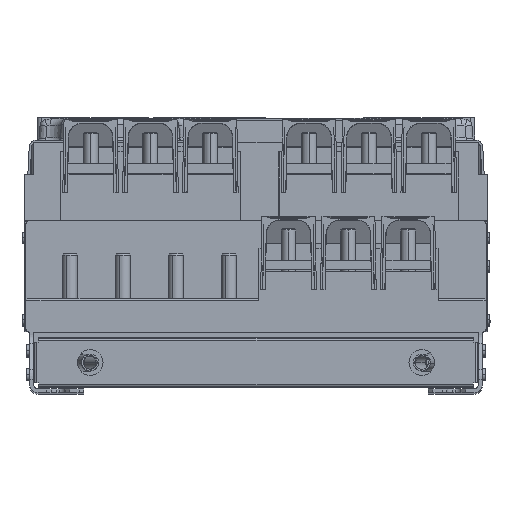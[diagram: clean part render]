
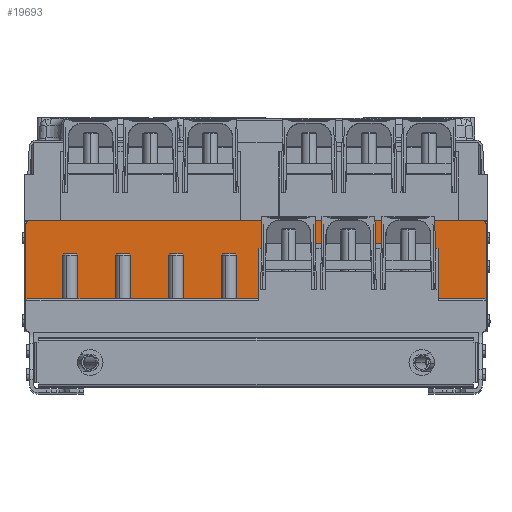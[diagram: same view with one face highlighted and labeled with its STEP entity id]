
A CAD part, top view. The second image highlights one B-rep face of the part: STEP entity #19693.
In plain terms, the highlighted planar face has unit normal (0, 0, 1).
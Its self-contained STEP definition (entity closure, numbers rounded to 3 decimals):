
#1294 = CARTESIAN_POINT ( 'NONE',  ( 245., 35., 179. ) ) ;
#1686 = ORIENTED_EDGE ( 'NONE', *, *, #53035, .T. ) ;
#2669 = DIRECTION ( 'NONE',  ( 1., 0., 0. ) ) ;
#2855 = EDGE_CURVE ( 'NONE', #5319, #25279, #47126, .T. ) ;
#2884 = EDGE_CURVE ( 'NONE', #6466, #87684, #41262, .T. ) ;
#3689 = EDGE_CURVE ( 'NONE', #77881, #73263, #59773, .T. ) ;
#3832 = AXIS2_PLACEMENT_3D ( 'NONE', #18816, #11830, #13189 ) ;
#3923 = LINE ( 'NONE', #83795, #23341 ) ;
#4007 = DIRECTION ( 'NONE',  ( 1., 0., 0. ) ) ;
#4682 = LINE ( 'NONE', #48576, #34442 ) ;
#5319 = VERTEX_POINT ( 'NONE', #25651 ) ;
#5397 = VECTOR ( 'NONE', #55304, 1000. ) ;
#6466 = VERTEX_POINT ( 'NONE', #23507 ) ;
#6686 = CARTESIAN_POINT ( 'NONE',  ( 5.351, 63.129, 179. ) ) ;
#7188 = EDGE_CURVE ( 'NONE', #38292, #48477, #81641, .T. ) ;
#8192 = CARTESIAN_POINT ( 'NONE',  ( 245., 35., 179. ) ) ;
#10267 = VERTEX_POINT ( 'NONE', #62248 ) ;
#11442 = FACE_OUTER_BOUND ( 'NONE', #57064, .T. ) ;
#11830 = DIRECTION ( 'NONE',  ( 0., 0., -1. ) ) ;
#11894 = DIRECTION ( 'NONE',  ( 0., 0., 1. ) ) ;
#13110 = EDGE_CURVE ( 'NONE', #26876, #87684, #46923, .T. ) ;
#13189 = DIRECTION ( 'NONE',  ( 1., 0., 0. ) ) ;
#13799 = LINE ( 'NONE', #55906, #32914 ) ;
#14808 = CARTESIAN_POINT ( 'NONE',  ( -247., 1., 179. ) ) ;
#15557 = VECTOR ( 'NONE', #57085, 1000. ) ;
#16467 = DIRECTION ( 'NONE',  ( 0.707, 0.707, 0. ) ) ;
#18159 = ORIENTED_EDGE ( 'NONE', *, *, #25123, .T. ) ;
#18413 = CARTESIAN_POINT ( 'NONE',  ( -247., 31., 179. ) ) ;
#18816 = CARTESIAN_POINT ( 'NONE',  ( -243., 115., 179. ) ) ;
#19024 = CARTESIAN_POINT ( 'NONE',  ( 192.965, 63.129, 179. ) ) ;
#19693 = ADVANCED_FACE ( 'NONE', ( #11442 ), #46505, .T. ) ;
#20331 = DIRECTION ( 'NONE',  ( 1., 0., 0. ) ) ;
#20605 = VERTEX_POINT ( 'NONE', #22309 ) ;
#21349 = LINE ( 'NONE', #14808, #33450 ) ;
#22309 = CARTESIAN_POINT ( 'NONE',  ( 195.511, 89., 179. ) ) ;
#23341 = VECTOR ( 'NONE', #40774, 1000. ) ;
#23507 = CARTESIAN_POINT ( 'NONE',  ( 5.894, 94.2, 179. ) ) ;
#24981 = VERTEX_POINT ( 'NONE', #30122 ) ;
#25123 = EDGE_CURVE ( 'NONE', #20605, #38292, #30597, .T. ) ;
#25279 = VERTEX_POINT ( 'NONE', #70807 ) ;
#25463 = CARTESIAN_POINT ( 'NONE',  ( -247., 35., 179. ) ) ;
#25651 = CARTESIAN_POINT ( 'NONE',  ( -247., 115., 179. ) ) ;
#25812 = CARTESIAN_POINT ( 'NONE',  ( 2.806, 89., 179. ) ) ;
#26471 = LINE ( 'NONE', #19024, #62880 ) ;
#26876 = VERTEX_POINT ( 'NONE', #50139 ) ;
#27234 = EDGE_CURVE ( 'NONE', #33652, #5319, #21349, .T. ) ;
#27483 = ORIENTED_EDGE ( 'NONE', *, *, #68338, .F. ) ;
#27912 = VERTEX_POINT ( 'NONE', #49693 ) ;
#28628 = LINE ( 'NONE', #80117, #38180 ) ;
#29725 = DIRECTION ( 'NONE',  ( 0., 0., -1. ) ) ;
#29727 = DIRECTION ( 'NONE',  ( 0.707, -0.707, 0. ) ) ;
#30122 = CARTESIAN_POINT ( 'NONE',  ( -245., 35., 179. ) ) ;
#30597 = LINE ( 'NONE', #45593, #51093 ) ;
#32914 = VECTOR ( 'NONE', #20331, 1000. ) ;
#33450 = VECTOR ( 'NONE', #55185, 1000. ) ;
#33652 = VERTEX_POINT ( 'NONE', #45334 ) ;
#33733 = CARTESIAN_POINT ( 'NONE',  ( 195.511, 35., 179. ) ) ;
#34442 = VECTOR ( 'NONE', #63047, 1000. ) ;
#36193 = ORIENTED_EDGE ( 'NONE', *, *, #13110, .T. ) ;
#37339 = EDGE_CURVE ( 'NONE', #33652, #24981, #28628, .T. ) ;
#38180 = VECTOR ( 'NONE', #16467, 1000. ) ;
#38292 = VERTEX_POINT ( 'NONE', #33733 ) ;
#40094 = DIRECTION ( 'NONE',  ( 0.017, -1., 0. ) ) ;
#40774 = DIRECTION ( 'NONE',  ( 1., 0., 0. ) ) ;
#41262 = LINE ( 'NONE', #6686, #69494 ) ;
#41344 = LINE ( 'NONE', #82519, #43892 ) ;
#41943 = VECTOR ( 'NONE', #2669, 1000. ) ;
#43198 = EDGE_CURVE ( 'NONE', #6466, #59588, #41344, .T. ) ;
#43795 = CARTESIAN_POINT ( 'NONE',  ( 243., 115., 179. ) ) ;
#43892 = VECTOR ( 'NONE', #91354, 1000. ) ;
#44621 = EDGE_CURVE ( 'NONE', #10267, #20605, #3923, .T. ) ;
#44891 = ORIENTED_EDGE ( 'NONE', *, *, #43198, .T. ) ;
#45334 = CARTESIAN_POINT ( 'NONE',  ( -247., 33., 179. ) ) ;
#45566 = CARTESIAN_POINT ( 'NONE',  ( 247., 115., 179. ) ) ;
#45593 = CARTESIAN_POINT ( 'NONE',  ( 195.511, 89., 179. ) ) ;
#46466 = AXIS2_PLACEMENT_3D ( 'NONE', #43795, #29725, #50827 ) ;
#46505 = PLANE ( 'NONE',  #78775 ) ;
#46923 = LINE ( 'NONE', #25812, #5397 ) ;
#47126 = CIRCLE ( 'NONE', #3832, 4. ) ;
#48477 = VERTEX_POINT ( 'NONE', #8192 ) ;
#48576 = CARTESIAN_POINT ( 'NONE',  ( -243., 119., 179. ) ) ;
#48702 = ORIENTED_EDGE ( 'NONE', *, *, #74303, .F. ) ;
#49693 = CARTESIAN_POINT ( 'NONE',  ( 2.806, 35., 179. ) ) ;
#50139 = CARTESIAN_POINT ( 'NONE',  ( 2.806, 89., 179. ) ) ;
#50827 = DIRECTION ( 'NONE',  ( 1., 0., 0. ) ) ;
#51093 = VECTOR ( 'NONE', #81596, 1000. ) ;
#51849 = CARTESIAN_POINT ( 'NONE',  ( 247., 115., 179. ) ) ;
#52502 = CARTESIAN_POINT ( 'NONE',  ( 243., 119., 179. ) ) ;
#52554 = ORIENTED_EDGE ( 'NONE', *, *, #89637, .T. ) ;
#53035 = EDGE_CURVE ( 'NONE', #48477, #73263, #65341, .T. ) ;
#53261 = ORIENTED_EDGE ( 'NONE', *, *, #2855, .F. ) ;
#55185 = DIRECTION ( 'NONE',  ( 0., 1., 0. ) ) ;
#55304 = DIRECTION ( 'NONE',  ( 1., 0., 0. ) ) ;
#55906 = CARTESIAN_POINT ( 'NONE',  ( -247., 35., 179. ) ) ;
#57064 = EDGE_LOOP ( 'NONE', ( #72470, #44891, #74294, #80868, #18159, #57699, #1686, #79281, #27483, #48702, #53261, #70067, #66966, #52554, #87085, #36193 ) ) ;
#57085 = DIRECTION ( 'NONE',  ( 0., 1., 0. ) ) ;
#57699 = ORIENTED_EDGE ( 'NONE', *, *, #7188, .T. ) ;
#59064 = EDGE_CURVE ( 'NONE', #27912, #26876, #65493, .T. ) ;
#59588 = VERTEX_POINT ( 'NONE', #88607 ) ;
#59773 = LINE ( 'NONE', #51849, #85958 ) ;
#61813 = VERTEX_POINT ( 'NONE', #52502 ) ;
#61860 = DIRECTION ( 'NONE',  ( -0.017, -1., 0. ) ) ;
#61980 = CARTESIAN_POINT ( 'NONE',  ( 5.803, 89., 179. ) ) ;
#62248 = CARTESIAN_POINT ( 'NONE',  ( 192.514, 89., 179. ) ) ;
#62880 = VECTOR ( 'NONE', #40094, 1000. ) ;
#63047 = DIRECTION ( 'NONE',  ( 1., 0., 0. ) ) ;
#65341 = LINE ( 'NONE', #1294, #71332 ) ;
#65493 = LINE ( 'NONE', #72067, #15557 ) ;
#66384 = CARTESIAN_POINT ( 'NONE',  ( 247., 33., 179. ) ) ;
#66966 = ORIENTED_EDGE ( 'NONE', *, *, #37339, .T. ) ;
#68338 = EDGE_CURVE ( 'NONE', #61813, #77881, #89774, .T. ) ;
#69494 = VECTOR ( 'NONE', #61860, 1000. ) ;
#70067 = ORIENTED_EDGE ( 'NONE', *, *, #27234, .F. ) ;
#70807 = CARTESIAN_POINT ( 'NONE',  ( -243., 119., 179. ) ) ;
#71332 = VECTOR ( 'NONE', #29727, 1000. ) ;
#72067 = CARTESIAN_POINT ( 'NONE',  ( 2.806, 35., 179. ) ) ;
#72470 = ORIENTED_EDGE ( 'NONE', *, *, #2884, .F. ) ;
#73263 = VERTEX_POINT ( 'NONE', #66384 ) ;
#73365 = DIRECTION ( 'NONE',  ( 0., -1., 0. ) ) ;
#74294 = ORIENTED_EDGE ( 'NONE', *, *, #84308, .T. ) ;
#74303 = EDGE_CURVE ( 'NONE', #25279, #61813, #4682, .T. ) ;
#77881 = VERTEX_POINT ( 'NONE', #45566 ) ;
#78775 = AXIS2_PLACEMENT_3D ( 'NONE', #18413, #11894, #4007 ) ;
#79281 = ORIENTED_EDGE ( 'NONE', *, *, #3689, .F. ) ;
#80117 = CARTESIAN_POINT ( 'NONE',  ( -245., 35., 179. ) ) ;
#80868 = ORIENTED_EDGE ( 'NONE', *, *, #44621, .T. ) ;
#81596 = DIRECTION ( 'NONE',  ( 0., -1., 0. ) ) ;
#81641 = LINE ( 'NONE', #25463, #41943 ) ;
#82519 = CARTESIAN_POINT ( 'NONE',  ( -44.533, 94.2, 179. ) ) ;
#83795 = CARTESIAN_POINT ( 'NONE',  ( 190.479, 89., 179. ) ) ;
#84308 = EDGE_CURVE ( 'NONE', #59588, #10267, #26471, .T. ) ;
#85958 = VECTOR ( 'NONE', #73365, 1000. ) ;
#87085 = ORIENTED_EDGE ( 'NONE', *, *, #59064, .T. ) ;
#87684 = VERTEX_POINT ( 'NONE', #61980 ) ;
#88607 = CARTESIAN_POINT ( 'NONE',  ( 192.423, 94.2, 179. ) ) ;
#89637 = EDGE_CURVE ( 'NONE', #24981, #27912, #13799, .T. ) ;
#89774 = CIRCLE ( 'NONE', #46466, 4. ) ;
#91354 = DIRECTION ( 'NONE',  ( 1., 0., 0. ) ) ;
